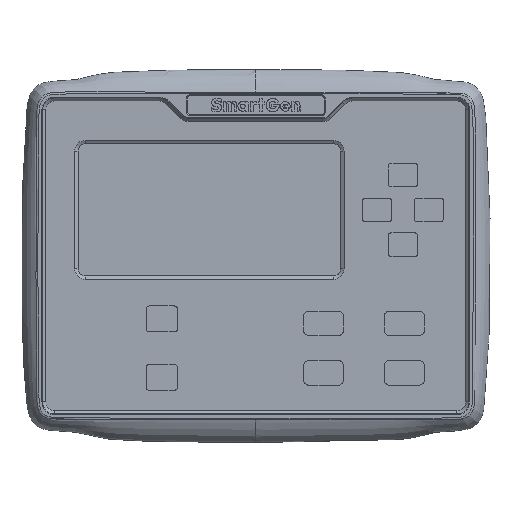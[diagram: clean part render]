
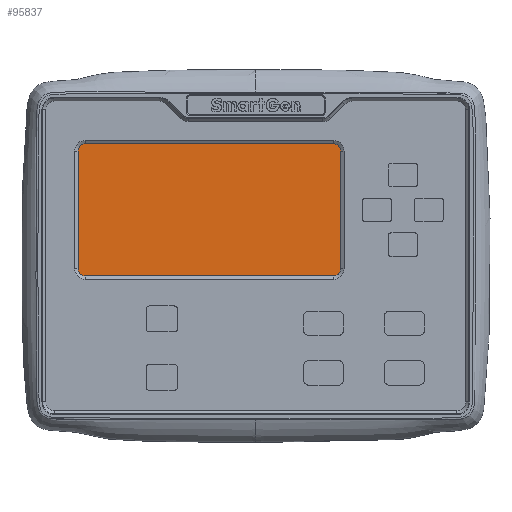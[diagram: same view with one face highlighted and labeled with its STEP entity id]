
A CAD part, top view. The second image highlights one B-rep face of the part: STEP entity #95837.
In plain terms, the highlighted planar face has unit normal (0, 0, 1).
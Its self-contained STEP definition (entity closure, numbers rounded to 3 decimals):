
#138 = CARTESIAN_POINT ( 'NONE',  ( -20.683, 49.925, -2.5 ) ) ;
#2991 = DIRECTION ( 'NONE',  ( 0., 0., -1. ) ) ;
#16030 = VECTOR ( 'NONE', #59911, 1000. ) ;
#18581 = ORIENTED_EDGE ( 'NONE', *, *, #154543, .T. ) ;
#22106 = CARTESIAN_POINT ( 'NONE',  ( -79.133, 46.725, -2.5 ) ) ;
#23015 = LINE ( 'NONE', #138, #123081 ) ;
#23983 = LINE ( 'NONE', #139821, #301175 ) ;
#25976 = ORIENTED_EDGE ( 'NONE', *, *, #293436, .T. ) ;
#27499 = DIRECTION ( 'NONE',  ( -1., 0., 0. ) ) ;
#41075 = EDGE_LOOP ( 'NONE', ( #284845, #219874, #72638, #211264, #18581, #55538, #25976, #65290 ) ) ;
#41410 = VERTEX_POINT ( 'NONE', #300879 ) ;
#44303 = EDGE_CURVE ( 'NONE', #96270, #41410, #193435, .T. ) ;
#45760 = VERTEX_POINT ( 'NONE', #193686 ) ;
#45795 = DIRECTION ( 'NONE',  ( 0., -1., 0. ) ) ;
#48719 = CARTESIAN_POINT ( 'NONE',  ( -75.933, 46.725, -2.5 ) ) ;
#49310 = PLANE ( 'NONE',  #217912 ) ;
#55538 = ORIENTED_EDGE ( 'NONE', *, *, #44303, .F. ) ;
#59077 = EDGE_CURVE ( 'NONE', #288862, #211398, #65343, .T. ) ;
#59911 = DIRECTION ( 'NONE',  ( 1., 0., 0. ) ) ;
#60339 = AXIS2_PLACEMENT_3D ( 'NONE', #271494, #205868, #45795 ) ;
#65290 = ORIENTED_EDGE ( 'NONE', *, *, #59077, .F. ) ;
#65343 = CIRCLE ( 'NONE', #196760, 3.2 ) ;
#72638 = ORIENTED_EDGE ( 'NONE', *, *, #217769, .T. ) ;
#73686 = FACE_OUTER_BOUND ( 'NONE', #41075, .T. ) ;
#84135 = CARTESIAN_POINT ( 'NONE',  ( -75.933, -8.875, -2.5 ) ) ;
#91642 = CIRCLE ( 'NONE', #179114, 3.2 ) ;
#93557 = CARTESIAN_POINT ( 'NONE',  ( -78.933, -8.675, -2.5 ) ) ;
#95837 = ADVANCED_FACE ( 'NONE', ( #73686 ), #49310, .T. ) ;
#96270 = VERTEX_POINT ( 'NONE', #84135 ) ;
#119934 = DIRECTION ( 'NONE',  ( 0., 1., 0. ) ) ;
#123081 = VECTOR ( 'NONE', #27499, 1000. ) ;
#132117 = DIRECTION ( 'NONE',  ( 0., 0., -1. ) ) ;
#133628 = DIRECTION ( 'NONE',  ( 0., -1., 0. ) ) ;
#135986 = VERTEX_POINT ( 'NONE', #22106 ) ;
#139821 = CARTESIAN_POINT ( 'NONE',  ( 37.767, 20.525, -2.5 ) ) ;
#142862 = CARTESIAN_POINT ( 'NONE',  ( -79.133, 20.525, -2.5 ) ) ;
#154434 = LINE ( 'NONE', #247441, #16030 ) ;
#154543 = EDGE_CURVE ( 'NONE', #135986, #41410, #261743, .T. ) ;
#160669 = DIRECTION ( 'NONE',  ( 1., 0., 0. ) ) ;
#160880 = CARTESIAN_POINT ( 'NONE',  ( 34.567, -5.675, -2.5 ) ) ;
#177309 = CARTESIAN_POINT ( 'NONE',  ( 37.767, -5.675, -2.5 ) ) ;
#179114 = AXIS2_PLACEMENT_3D ( 'NONE', #48719, #2991, #256081 ) ;
#180327 = CARTESIAN_POINT ( 'NONE',  ( 34.567, 49.925, -2.5 ) ) ;
#184578 = CARTESIAN_POINT ( 'NONE',  ( 34.567, -8.875, -2.5 ) ) ;
#188278 = DIRECTION ( 'NONE',  ( 0., 0., -1. ) ) ;
#193435 = CIRCLE ( 'NONE', #237223, 3.2 ) ;
#193686 = CARTESIAN_POINT ( 'NONE',  ( -75.933, 49.925, -2.5 ) ) ;
#196760 = AXIS2_PLACEMENT_3D ( 'NONE', #160880, #188278, #255380 ) ;
#197827 = CARTESIAN_POINT ( 'NONE',  ( 37.767, 46.725, -2.5 ) ) ;
#199964 = VERTEX_POINT ( 'NONE', #197827 ) ;
#201910 = EDGE_CURVE ( 'NONE', #288862, #199964, #23983, .T. ) ;
#205868 = DIRECTION ( 'NONE',  ( 0., 0., -1. ) ) ;
#207497 = EDGE_CURVE ( 'NONE', #135986, #45760, #91642, .T. ) ;
#211264 = ORIENTED_EDGE ( 'NONE', *, *, #207497, .F. ) ;
#211398 = VERTEX_POINT ( 'NONE', #184578 ) ;
#217769 = EDGE_CURVE ( 'NONE', #279285, #45760, #23015, .T. ) ;
#217912 = AXIS2_PLACEMENT_3D ( 'NONE', #93557, #279555, #160669 ) ;
#219874 = ORIENTED_EDGE ( 'NONE', *, *, #295867, .F. ) ;
#229175 = VECTOR ( 'NONE', #241867, 1000. ) ;
#237223 = AXIS2_PLACEMENT_3D ( 'NONE', #249507, #132117, #133628 ) ;
#241867 = DIRECTION ( 'NONE',  ( 0., -1., 0. ) ) ;
#247441 = CARTESIAN_POINT ( 'NONE',  ( -20.683, -8.875, -2.5 ) ) ;
#249507 = CARTESIAN_POINT ( 'NONE',  ( -75.933, -5.675, -2.5 ) ) ;
#255380 = DIRECTION ( 'NONE',  ( 0., -1., 0. ) ) ;
#256081 = DIRECTION ( 'NONE',  ( 0., -1., 0. ) ) ;
#261743 = LINE ( 'NONE', #142862, #229175 ) ;
#271494 = CARTESIAN_POINT ( 'NONE',  ( 34.567, 46.725, -2.5 ) ) ;
#274542 = CIRCLE ( 'NONE', #60339, 3.2 ) ;
#279285 = VERTEX_POINT ( 'NONE', #180327 ) ;
#279555 = DIRECTION ( 'NONE',  ( 0., 0., 1. ) ) ;
#284845 = ORIENTED_EDGE ( 'NONE', *, *, #201910, .T. ) ;
#288862 = VERTEX_POINT ( 'NONE', #177309 ) ;
#293436 = EDGE_CURVE ( 'NONE', #96270, #211398, #154434, .T. ) ;
#295867 = EDGE_CURVE ( 'NONE', #279285, #199964, #274542, .T. ) ;
#300879 = CARTESIAN_POINT ( 'NONE',  ( -79.133, -5.675, -2.5 ) ) ;
#301175 = VECTOR ( 'NONE', #119934, 1000. ) ;
